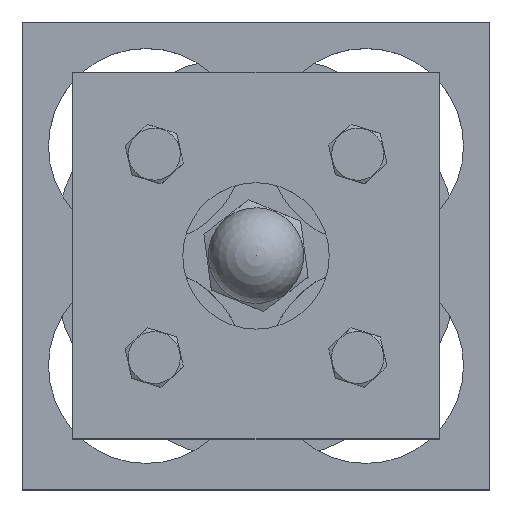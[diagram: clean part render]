
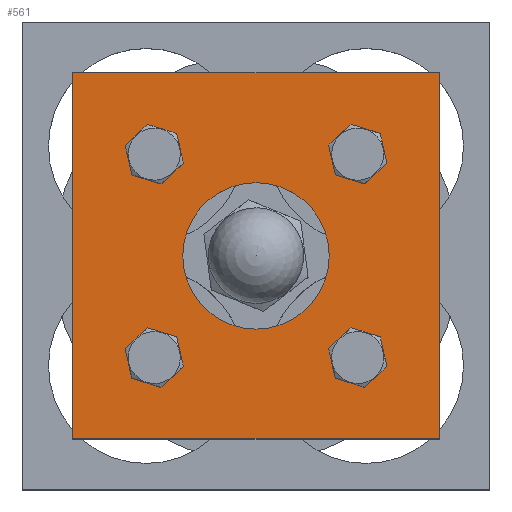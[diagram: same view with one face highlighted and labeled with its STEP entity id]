
A CAD part, top view. The second image highlights one B-rep face of the part: STEP entity #561.
In plain terms, the highlighted planar face has unit normal (0, 0, 1).
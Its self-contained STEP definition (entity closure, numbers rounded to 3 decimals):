
#236=LINE('',#3272,#332);
#240=LINE('',#3280,#336);
#243=LINE('',#3286,#339);
#245=LINE('',#3289,#341);
#332=VECTOR('',#2639,1.);
#336=VECTOR('',#2645,1.);
#339=VECTOR('',#2650,1.);
#341=VECTOR('',#2654,1.);
#561=ADVANCED_FACE('',(#774,#775,#776,#777,#778,#779),#683,.T.);
#683=PLANE('',#2301);
#774=FACE_BOUND('',#946,.T.);
#775=FACE_BOUND('',#947,.T.);
#776=FACE_BOUND('',#948,.T.);
#777=FACE_BOUND('',#949,.T.);
#778=FACE_BOUND('',#950,.T.);
#779=FACE_BOUND('',#951,.T.);
#946=EDGE_LOOP('',(#1256));
#947=EDGE_LOOP('',(#1257));
#948=EDGE_LOOP('',(#1258));
#949=EDGE_LOOP('',(#1259));
#950=EDGE_LOOP('',(#1260,#1261,#1262,#1263));
#951=EDGE_LOOP('',(#1264));
#1256=ORIENTED_EDGE('',*,*,#1855,.F.);
#1257=ORIENTED_EDGE('',*,*,#1856,.F.);
#1258=ORIENTED_EDGE('',*,*,#1857,.F.);
#1259=ORIENTED_EDGE('',*,*,#1858,.F.);
#1260=ORIENTED_EDGE('',*,*,#1843,.T.);
#1261=ORIENTED_EDGE('',*,*,#1847,.T.);
#1262=ORIENTED_EDGE('',*,*,#1850,.T.);
#1263=ORIENTED_EDGE('',*,*,#1852,.T.);
#1264=ORIENTED_EDGE('',*,*,#1853,.F.);
#1640=VERTEX_POINT('',#3271);
#1641=VERTEX_POINT('',#3273);
#1643=VERTEX_POINT('',#3279);
#1645=VERTEX_POINT('',#3285);
#1646=VERTEX_POINT('',#3292);
#1648=VERTEX_POINT('',#3297);
#1649=VERTEX_POINT('',#3299);
#1650=VERTEX_POINT('',#3301);
#1651=VERTEX_POINT('',#3303);
#1843=EDGE_CURVE('',#1641,#1640,#236,.T.);
#1847=EDGE_CURVE('',#1640,#1643,#240,.T.);
#1850=EDGE_CURVE('',#1643,#1645,#243,.T.);
#1852=EDGE_CURVE('',#1645,#1641,#245,.T.);
#1853=EDGE_CURVE('',#1646,#1646,#2154,.T.);
#1855=EDGE_CURVE('',#1648,#1648,#2156,.T.);
#1856=EDGE_CURVE('',#1649,#1649,#2157,.T.);
#1857=EDGE_CURVE('',#1650,#1650,#2158,.T.);
#1858=EDGE_CURVE('',#1651,#1651,#2159,.T.);
#2154=CIRCLE('',#2294,18.);
#2156=CIRCLE('',#2297,4.25);
#2157=CIRCLE('',#2298,4.25);
#2158=CIRCLE('',#2299,4.25);
#2159=CIRCLE('',#2300,4.25);
#2294=AXIS2_PLACEMENT_3D('',#3291,#2657,#2658);
#2297=AXIS2_PLACEMENT_3D('',#3296,#2663,#2664);
#2298=AXIS2_PLACEMENT_3D('',#3298,#2665,#2666);
#2299=AXIS2_PLACEMENT_3D('',#3300,#2667,#2668);
#2300=AXIS2_PLACEMENT_3D('',#3302,#2669,#2670);
#2301=AXIS2_PLACEMENT_3D('',#3304,#2671,#2672);
#2639=DIRECTION('',(0.,1.,0.));
#2645=DIRECTION('',(-1.,0.,0.));
#2650=DIRECTION('',(0.,-1.,0.));
#2654=DIRECTION('',(1.,0.,0.));
#2657=DIRECTION('',(0.,0.,1.));
#2658=DIRECTION('',(1.,0.,0.));
#2663=DIRECTION('',(0.,0.,1.));
#2664=DIRECTION('',(1.,0.,0.));
#2665=DIRECTION('',(0.,0.,1.));
#2666=DIRECTION('',(1.,0.,0.));
#2667=DIRECTION('',(0.,0.,1.));
#2668=DIRECTION('',(1.,0.,0.));
#2669=DIRECTION('',(0.,0.,1.));
#2670=DIRECTION('',(1.,0.,0.));
#2671=DIRECTION('',(0.,0.,1.));
#2672=DIRECTION('',(1.,0.,0.));
#3271=CARTESIAN_POINT('',(45.,45.,40.));
#3272=CARTESIAN_POINT('',(45.,-45.,40.));
#3273=CARTESIAN_POINT('',(45.,-45.,40.));
#3279=CARTESIAN_POINT('',(-45.,45.,40.));
#3280=CARTESIAN_POINT('',(45.,45.,40.));
#3285=CARTESIAN_POINT('',(-45.,-45.,40.));
#3286=CARTESIAN_POINT('',(-45.,45.,40.));
#3289=CARTESIAN_POINT('',(-45.,-45.,40.));
#3291=CARTESIAN_POINT('',(0.,0.,40.));
#3292=CARTESIAN_POINT('',(18.,0.,40.));
#3296=CARTESIAN_POINT('',(25.,25.,40.));
#3297=CARTESIAN_POINT('',(29.25,25.,40.));
#3298=CARTESIAN_POINT('',(25.,-25.,40.));
#3299=CARTESIAN_POINT('',(29.25,-25.,40.));
#3300=CARTESIAN_POINT('',(-25.,-25.,40.));
#3301=CARTESIAN_POINT('',(-20.75,-25.,40.));
#3302=CARTESIAN_POINT('',(-25.,25.,40.));
#3303=CARTESIAN_POINT('',(-20.75,25.,40.));
#3304=CARTESIAN_POINT('',(0.,0.,40.));
